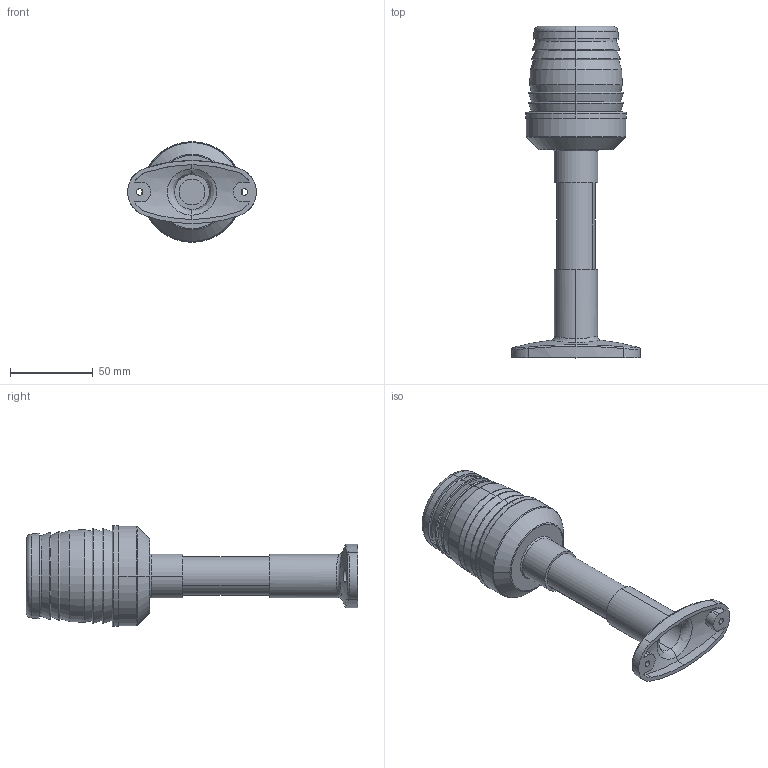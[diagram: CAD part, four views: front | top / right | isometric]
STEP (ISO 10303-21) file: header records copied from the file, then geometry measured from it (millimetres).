
FILE_DESCRIPTION (( 'STEP AP203' ), '1' );
FILE_NAME ('11.113.21_2025_07.STEP', '2025-07-23T10:43:28', ( '' ), ( '' ), 'SwSTEP 2.0', 'SolidWorks 2025', '' );
FILE_SCHEMA (( 'CONFIG_CONTROL_DESIGN' ));
Length unit declared in the file: millimetre
Products named in the file (2): 11.113.21_2025_07; OPL11-0038_+_OPL11-0040_Vetro360+CappuccioBianco_S
Assembly tree (1 placements, depth 2):
  11.113.21_2025_07
    OPL11-0038_+_OPL11-0040_Vetro360+CappuccioBianco_S
Bounding box: 77.59 x 200 x 60.7 mm (x, y, z)
Volume: 171162.9 mm3; surface area: 50973.9 mm2
Topology: 1 solids, 2 shells, 138 faces, 300 edges, 183 vertices
Faces by surface type: cylinder 48, cone 27, plane 25, torus 20, bspline 18
Entity records: 6372 total; most frequent: CARTESIAN_POINT 3180, DIRECTION 660, ORIENTED_EDGE 600, EDGE_CURVE 300, AXIS2_PLACEMENT_3D 287, VERTEX_POINT 183, CIRCLE 163, EDGE_LOOP 161
